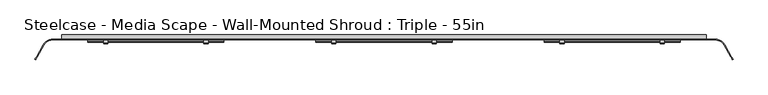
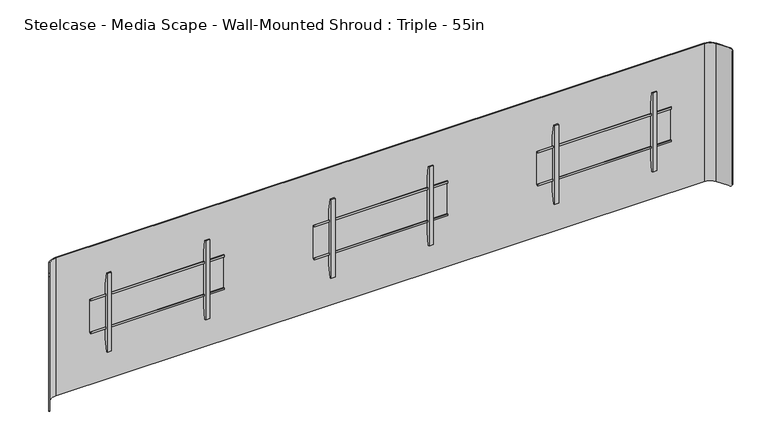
"""IFC4 building model written with IfcOpenShell, lengths in millimetres: furniture geometry, Steelcase - Media Scape - Wall-Mounted Shroud : Triple - 55in."""

from ifc_helpers import new_model, si_unit, frame, origin, place, context, project, spatial, polyline, circle_curve, outline, extrude, source, transform, mapped, element, save
from ifc_brep_helpers import plane_surface, cylinder_surface, revolved_surface, advanced_brep


def steelcase_media_scape_wall_mounted_shroud_triple_55in_0f4544b8(model_context):
    return source(origin(), model_context, "Body", "SolidModel", [
        extrude(outline(polyline([(-42.4942785, 1383.7004726), (-42.4942785, 1395.7145649), (-39.8272175, 1395.7145649), (-39.8272175, 1386.367461), (-29.9720009, 1386.367461), (-29.9720009, 1172.0422438), (-42.3164551, 1172.0422438), (-42.3164551, 1182.9642515), (-39.649394, 1182.9642515), (-39.649394, 1174.707052), (-32.6531824, 1174.707052), (-32.6531824, 1383.7004726), (-42.4942785, 1383.7004726)])), frame((955.675, 0.0, 0.0), z_axis=(1.0, 0.0, 0.0), x_axis=(0.0, 1.0, 0.0)), (0.0, 0.0, 1.0), 812.8),
        extrude(outline(polyline([(-32.6531824, 1454.6471148), (-32.6531824, 1102.8325607), (-46.5049349, 1025.2046949), (-53.3399828, 1025.2046949), (-53.3399828, 1533.2047192), (-46.5050076, 1533.2047192), (-32.6531824, 1454.6471148)])), frame((1049.276426, 0.0, 0.0), z_axis=(1.0, 0.0, 0.0), x_axis=(0.0, 1.0, 0.0)), (0.0, 0.0, 1.0), 26.1592872),
        extrude(outline(polyline([(-32.6531824, 1454.6471148), (-32.6531824, 1102.8325607), (-46.5049349, 1025.2046949), (-53.3399828, 1025.2046949), (-53.3399828, 1533.2047192), (-46.5050076, 1533.2047192), (-32.6531824, 1454.6471148)])), frame((1648.7142868, 0.0, 0.0), z_axis=(1.0, 0.0, 0.0), x_axis=(0.0, 1.0, 0.0)), (0.0, 0.0, 1.0), 26.1592872),
        extrude(outline(polyline([(-42.4942785, 1383.7004726), (-42.4942785, 1395.7145649), (-39.8272175, 1395.7145649), (-39.8272175, 1386.367461), (-29.9720009, 1386.367461), (-29.9720009, 1172.0422438), (-42.3164551, 1172.0422438), (-42.3164551, 1182.9642515), (-39.649394, 1182.9642515), (-39.649394, 1174.707052), (-32.6531824, 1174.707052), (-32.6531824, 1383.7004726), (-42.4942785, 1383.7004726)])), frame((-1768.475, 0.0, 0.0), z_axis=(1.0, 0.0, 0.0), x_axis=(0.0, 1.0, 0.0)), (0.0, 0.0, 1.0), 812.8),
        extrude(outline(polyline([(-32.6531824, 1454.6471148), (-32.6531824, 1102.8325607), (-46.5049349, 1025.2046949), (-53.3399828, 1025.2046949), (-53.3399828, 1533.2047192), (-46.5050076, 1533.2047192), (-32.6531824, 1454.6471148)])), frame((-1075.4357132, 0.0, 0.0), z_axis=(1.0, 0.0, 0.0), x_axis=(0.0, 1.0, 0.0)), (0.0, 0.0, 1.0), 26.1592872),
        extrude(outline(polyline([(-32.6531824, 1454.6471148), (-32.6531824, 1102.8325607), (-46.5049349, 1025.2046949), (-53.3399828, 1025.2046949), (-53.3399828, 1533.2047192), (-46.5050076, 1533.2047192), (-32.6531824, 1454.6471148)])), frame((-1674.873574, 0.0, 0.0), z_axis=(1.0, 0.0, 0.0), x_axis=(0.0, 1.0, 0.0)), (0.0, 0.0, 1.0), 26.1592872),
        extrude(outline(polyline([(-42.4942785, 1383.7004726), (-42.4942785, 1395.7145649), (-39.8272175, 1395.7145649), (-39.8272175, 1386.367461), (-29.9720009, 1386.367461), (-29.9720009, 1172.0422438), (-42.3164551, 1172.0422438), (-42.3164551, 1182.9642515), (-39.649394, 1182.9642515), (-39.649394, 1174.707052), (-32.6531824, 1174.707052), (-32.6531824, 1383.7004726), (-42.4942785, 1383.7004726)])), frame((-406.4, 0.0, 0.0), z_axis=(1.0, 0.0, 0.0), x_axis=(0.0, 1.0, 0.0)), (0.0, 0.0, 1.0), 812.8),
        extrude(outline(polyline([(-32.6531824, 1454.6471148), (-32.6531824, 1102.8325607), (-46.5049349, 1025.2046949), (-53.3399828, 1025.2046949), (-53.3399828, 1533.2047192), (-46.5050076, 1533.2047192), (-32.6531824, 1454.6471148)])), frame((286.6392868, 0.0, 0.0), z_axis=(1.0, 0.0, 0.0), x_axis=(0.0, 1.0, 0.0)), (0.0, 0.0, 1.0), 26.1592872),
        extrude(outline(polyline([(-32.6531824, 1454.6471148), (-32.6531824, 1102.8325607), (-46.5049349, 1025.2046949), (-53.3399828, 1025.2046949), (-53.3399828, 1533.2047192), (-46.5050076, 1533.2047192), (-32.6531824, 1454.6471148)])), frame((-312.798574, 0.0, 0.0), z_axis=(1.0, 0.0, 0.0), x_axis=(0.0, 1.0, 0.0)), (0.0, 0.0, 1.0), 26.1592872),
        advanced_brep(
        [(-2030.8586135, -61.722, 1724.914), (-1975.866002, -29.9720009, 1724.914), (1975.866, -29.9720009, 1724.914), (2030.8586135, -61.722, 1724.914), (2070.979586, -131.2135628, 1724.914), (2074.9390541, -128.9275628, 1724.914), (2034.8180817, -59.436, 1724.914), (1975.866002, -25.4, 1724.914), (-1975.866, -25.4, 1724.914), (-2034.8180817, -59.436, 1724.914), (-2074.9421659, -128.9329524, 1724.914), (-2070.9826977, -131.2189524, 1724.914), (-2034.8180817, -59.436, 835.914), (-1975.866002, -25.4, 835.914), (1975.866, -25.4, 835.914), (2034.8180817, -59.436, 835.914), (2074.9906629, -129.0169518, 835.914), (2071.0311948, -131.3029518, 835.914), (2030.8586135, -61.722, 835.914), (1975.866002, -29.9720009, 835.914), (-1975.866, -29.9720009, 835.914), (-2030.8586135, -61.722, 835.914), (-2071.0454014, -131.3275584, 835.914), (-2075.0048695, -129.0415584, 835.914), (-2084.5090632, -145.5033047, 849.5242766), (-2084.5090632, -145.5033047, 1710.9227735), (-2080.5495951, -147.7893047, 1710.9227735), (-2080.5495951, -147.7893047, 849.5242766), (2080.5270866, -147.7503189, 849.4756893), (2080.5270866, -147.7503189, 1711.0433849), (2084.4865547, -145.4643189, 1711.0433849), (2084.4865547, -145.4643189, 849.4756893)],
        [
            (0, 1, circle_curve(frame((-1975.866002, -93.4719991, 1724.914), z_axis=(0.0, 0.0, -1.0), x_axis=(0.0, 1.0, 0.0)), 63.4999981)),
            (1, 2),
            (2, 3, circle_curve(frame((1975.866002, -93.4719991, 1724.914), z_axis=(0.0, 0.0, -1.0), x_axis=(0.0, 1.0, 0.0)), 63.4999981)),
            (3, 4),
            (4, 5),
            (5, 6),
            (6, 7, circle_curve(frame((1975.8660004, -93.472, 1724.914), z_axis=(0.0, 0.0, 1.0), x_axis=(0.0, 1.0, 0.0)), 68.072)),
            (7, 8),
            (8, 9, circle_curve(frame((-1975.8660004, -93.472, 1724.914), z_axis=(0.0, 0.0, 1.0), x_axis=(0.0, 1.0, 0.0)), 68.072)),
            (9, 10),
            (10, 11),
            (11, 0),
            (12, 13, circle_curve(frame((-1975.8660004, -93.472, 835.914), z_axis=(0.0, 0.0, -1.0), x_axis=(0.0, 1.0, 0.0)), 68.072)),
            (13, 14),
            (14, 15, circle_curve(frame((1975.8660004, -93.472, 835.914), z_axis=(0.0, 0.0, -1.0), x_axis=(0.0, 1.0, 0.0)), 68.072)),
            (15, 16),
            (16, 17),
            (17, 18),
            (18, 19, circle_curve(frame((1975.866002, -93.4719991, 835.914), z_axis=(0.0, 0.0, 1.0), x_axis=(0.0, 1.0, 0.0)), 63.4999981)),
            (19, 20),
            (20, 21, circle_curve(frame((-1975.866002, -93.4719991, 835.914), z_axis=(0.0, 0.0, 1.0), x_axis=(0.0, 1.0, 0.0)), 63.4999981)),
            (21, 22),
            (22, 23),
            (23, 12),
            (0, 21),
            (20, 1),
            (8, 13),
            (12, 9),
            (23, 24, circle_curve(frame((-2075.0048695, -129.0415584, 855.9928872), z_axis=(-0.8660254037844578, 0.49999999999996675, 0.0), x_axis=(-0.49999999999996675, -0.8660254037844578, 0.0)), 20.0788872)),
            (24, 25),
            (25, 10, circle_curve(frame((-2074.9421659, -128.9329524, 1704.8351128), z_axis=(-0.866025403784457, 0.49999999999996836, 0.0), x_axis=(-0.49999999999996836, -0.866025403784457, 0.0)), 20.0788872)),
            (26, 25),
            (24, 27),
            (27, 26),
            (11, 26, circle_curve(frame((-2070.9826977, -131.2189524, 1704.8351128), z_axis=(0.866025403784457, -0.49999999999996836, 0.0), x_axis=(-0.49999999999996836, -0.866025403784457, 0.0)), 20.0788872)),
            (27, 22, circle_curve(frame((-2071.0454014, -131.3275584, 855.9928872), z_axis=(0.8660254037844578, -0.49999999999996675, 0.0), x_axis=(-0.49999999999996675, -0.8660254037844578, 0.0)), 20.0788872)),
            (7, 14),
            (19, 2),
            (3, 18),
            (17, 28, circle_curve(frame((2071.0311948, -131.3029518, 855.9928872), z_axis=(-0.8660254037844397, -0.49999999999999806, 0.0), x_axis=(0.49999999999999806, -0.8660254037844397, 0.0)), 20.0788872)),
            (28, 29),
            (29, 4, circle_curve(frame((2070.979586, -131.2135628, 1704.8351128), z_axis=(-0.8660254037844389, -0.49999999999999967, 0.0), x_axis=(0.49999999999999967, -0.8660254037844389, 0.0)), 20.0788872)),
            (30, 29),
            (28, 31),
            (31, 30),
            (15, 6),
            (5, 30, circle_curve(frame((2074.9390541, -128.9275628, 1704.8351128), z_axis=(0.8660254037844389, 0.49999999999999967, 0.0), x_axis=(0.49999999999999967, -0.8660254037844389, 0.0)), 20.0788872)),
            (31, 16, circle_curve(frame((2074.9906629, -129.0169518, 855.9928872), z_axis=(0.8660254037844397, 0.49999999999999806, 0.0), x_axis=(0.49999999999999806, -0.8660254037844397, 0.0)), 20.0788872)),
        ],
        [
            plane_surface(frame((-1975.866002, -29.9720009, 1724.914), z_axis=(0.0, 0.0, 1.0), x_axis=(1.0, 0.0, 0.0))),
            plane_surface(frame((-1975.866002, -29.9720009, 835.914), z_axis=(0.0, 0.0, -1.0), x_axis=(-1.0, 0.0, 0.0))),
            revolved_surface(polyline([(-1975.866002, -29.972001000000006, 835.914), (-1975.866002, -29.972001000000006, 1724.914)]), (-1975.866002, -93.4719991, 835.914), (0.0, 0.0, -1.0)),
            cylinder_surface(frame((-1975.8660004, -93.472, 835.914), z_axis=(0.0, 0.0, 1.0), x_axis=(0.0, 1.0, 0.0)), 68.072),
            plane_surface(frame((-2034.8180817, -59.436, 1724.914), z_axis=(-0.866025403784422, 0.5000000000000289, 0.0), x_axis=(0.0, 0.0, -1.0))),
            plane_surface(frame((-2084.5090632, -145.5033047, 1724.914), z_axis=(-0.5000000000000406, -0.8660254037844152, 0.0), x_axis=(0.0, 0.0, -1.0))),
            plane_surface(frame((-2080.5495951, -147.7893047, 1724.914), z_axis=(0.8660254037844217, -0.5000000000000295, 0.0), x_axis=(0.0, 0.0, -1.0))),
            plane_surface(frame((1975.866, -25.4, 1724.914), z_axis=(0.0, 1.0, 0.0), x_axis=(0.0, 0.0, -1.0))),
            plane_surface(frame((-1975.866, -29.9720009, 1724.914), z_axis=(0.0, -1.0, 0.0), x_axis=(0.0, 0.0, -1.0))),
            plane_surface(frame((2030.8586135, -61.722, 1724.914), z_axis=(-0.8660254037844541, -0.4999999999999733, 0.0), x_axis=(0.0, 0.0, -1.0))),
            plane_surface(frame((2080.5270866, -147.7503189, 1724.914), z_axis=(0.4999999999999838, -0.866025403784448, 0.0), x_axis=(0.0, 0.0, -1.0))),
            plane_surface(frame((2084.4865547, -145.4643189, 1724.914), z_axis=(0.8660254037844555, 0.49999999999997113, 0.0), x_axis=(0.0, 0.0, -1.0))),
            cylinder_surface(frame((1975.8660004, -93.472, 835.914), z_axis=(0.0, 0.0, 1.0), x_axis=(0.0, 1.0, 0.0)), 68.072),
            revolved_surface(polyline([(1975.866002, -29.972001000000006, 835.914), (1975.866002, -29.972001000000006, 1724.914)]), (1975.866002, -93.4719991, 835.914), (0.0, 0.0, -1.0)),
            cylinder_surface(frame((-2070.9826977, -131.2189524, 1704.8351128), z_axis=(0.866025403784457, -0.49999999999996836, 0.0), x_axis=(-0.49999999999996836, -0.866025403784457, 0.0)), 20.0788872),
            cylinder_surface(frame((-2071.0454014, -131.3275584, 855.9928872), z_axis=(0.8660254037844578, -0.49999999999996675, 0.0), x_axis=(-0.49999999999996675, -0.8660254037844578, 0.0)), 20.0788872),
            cylinder_surface(frame((2086.0864297, -122.4916225, 1704.8351128), z_axis=(0.8660254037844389, 0.49999999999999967, 0.0), x_axis=(0.49999999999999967, -0.8660254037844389, 0.0)), 20.0788872),
            cylinder_surface(frame((2083.2789695, -124.2316958, 855.9928872), z_axis=(0.8660254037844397, 0.49999999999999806, 0.0), x_axis=(0.49999999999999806, -0.8660254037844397, 0.0)), 20.0788872),
        ],
        [
            (0, [[1, 2, 3, 4, 5, 6, 7, 8, 9, 10, 11, 12]]),
            (1, [[13, 14, 15, 16, 17, 18, 19, 20, 21, 22, 23, 24]]),
            (2, [[-1, 25, -21, 26]]),
            (3, [[-9, 27, -13, 28]]),
            (4, [[-28, -24, 29, 30, 31, -10]]),
            (5, [[32, -30, 33, 34]]),
            (6, [[-25, -12, 35, -34, 36, -22]]),
            (7, [[-8, 37, -14, -27]]),
            (8, [[-2, -26, -20, 38]]),
            (9, [[39, -18, 40, 41, 42, -4]]),
            (10, [[43, -41, 44, 45]]),
            (11, [[46, -6, 47, -45, 48, -16]]),
            (12, [[-7, -46, -15, -37]]),
            (13, [[-3, -38, -19, -39]]),
            (14, [[-11, -31, -32, -35]]),
            (15, [[-23, -36, -33, -29]]),
            (16, [[-5, -42, -43, -47]]),
            (17, [[-17, -48, -44, -40]]),
        ],
    ),
        extrude(outline(polyline([(912.1648167, 1860.5499879), (912.1648167, 1924.05), (1648.714, 1924.05), (1648.714, -1924.05), (912.1648167, -1924.05), (912.1648167, -1861.5433465), (1585.2139516, -1861.5433465), (1585.2139516, 1860.5499879), (912.1648167, 1860.5499879)])), frame((0.0, -25.4, 0.0), z_axis=(0.0, 1.0, 0.0), x_axis=(0.0, 0.0, 1.0)), (0.0, 0.0, 1.0), 25.4),
    ])


if __name__ == "__main__":
    model = new_model("IFC4")
    model_context = context("Model", 3, world=origin())
    ifc_project = project(units=[si_unit("LENGTHUNIT", "METRE", prefix="MILLI")], contexts=[model_context])
    site = spatial("IfcSite", under=ifc_project)
    building = spatial("IfcBuilding", under=site)
    placement = place(None, origin())
    steelcase_media_scape_wall_mounted_shroud_triple_55in_shape = steelcase_media_scape_wall_mounted_shroud_triple_55in_0f4544b8(model_context)
    element("IfcFurniture", 1, ObjectType="Steelcase - Media Scape - Wall-Mounted Shroud : Triple - 55in", at=placement, inside=building, context=model_context, shape_type="MappedRepresentation", body=[
        mapped(steelcase_media_scape_wall_mounted_shroud_triple_55in_shape, transform((0.0, 0.0, 0.0), x_axis=(1.0, 0.0, 0.0), y_axis=(0.0, 1.0, 0.0), z_axis=(0.0, 0.0, 1.0))),
    ])
    save(model, "model.ifc")
